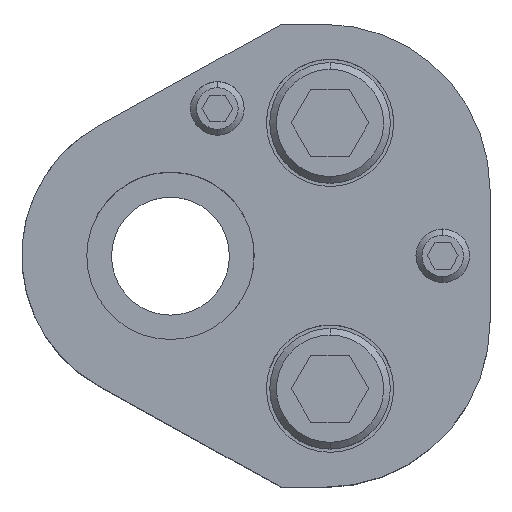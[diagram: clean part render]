
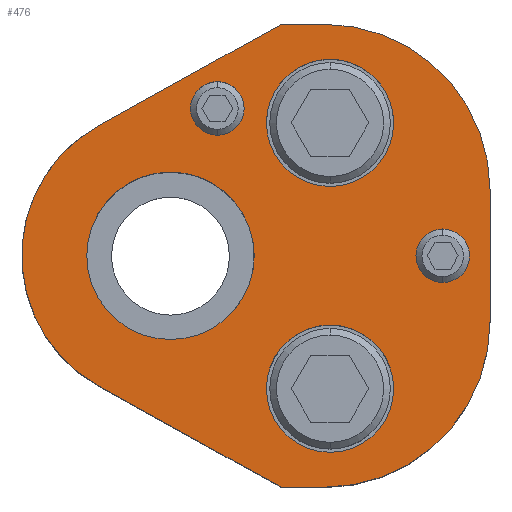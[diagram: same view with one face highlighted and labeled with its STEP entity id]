
A CAD part, top view. The second image highlights one B-rep face of the part: STEP entity #476.
In plain terms, the highlighted planar face has unit normal (0, 0, 1).
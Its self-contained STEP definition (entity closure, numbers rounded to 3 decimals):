
#213=FACE_BOUND('',#843,.T.);
#214=FACE_BOUND('',#844,.T.);
#215=FACE_BOUND('',#845,.T.);
#216=FACE_BOUND('',#846,.T.);
#217=FACE_BOUND('',#847,.T.);
#218=FACE_BOUND('',#848,.T.);
#300=CIRCLE('',#2773,24.7);
#302=CIRCLE('',#2777,24.7);
#304=CIRCLE('',#2782,4.);
#306=CIRCLE('',#2785,4.);
#308=CIRCLE('',#2788,4.);
#310=CIRCLE('',#2791,4.);
#320=CIRCLE('',#2806,22.2);
#321=CIRCLE('',#2807,9.5);
#322=CIRCLE('',#2808,9.5);
#323=CIRCLE('',#2809,9.5);
#324=CIRCLE('',#2810,9.5);
#325=CIRCLE('',#2811,12.5);
#326=CIRCLE('',#2812,12.5);
#476=ADVANCED_FACE('',(#213,#214,#215,#216,#217,#218),#592,.T.);
#592=PLANE('',#2813);
#843=EDGE_LOOP('',(#1250,#1251,#1252,#1253,#1254,#1255,#1256,#1257));
#844=EDGE_LOOP('',(#1258,#1259));
#845=EDGE_LOOP('',(#1260,#1261));
#846=EDGE_LOOP('',(#1262,#1263));
#847=EDGE_LOOP('',(#1264,#1265));
#848=EDGE_LOOP('',(#1266,#1267));
#1250=ORIENTED_EDGE('',*,*,#2069,.T.);
#1251=ORIENTED_EDGE('',*,*,#2027,.T.);
#1252=ORIENTED_EDGE('',*,*,#2031,.T.);
#1253=ORIENTED_EDGE('',*,*,#2034,.T.);
#1254=ORIENTED_EDGE('',*,*,#2037,.T.);
#1255=ORIENTED_EDGE('',*,*,#2040,.T.);
#1256=ORIENTED_EDGE('',*,*,#2043,.T.);
#1257=ORIENTED_EDGE('',*,*,#2070,.T.);
#1258=ORIENTED_EDGE('',*,*,#2071,.F.);
#1259=ORIENTED_EDGE('',*,*,#2072,.F.);
#1260=ORIENTED_EDGE('',*,*,#2073,.F.);
#1261=ORIENTED_EDGE('',*,*,#2074,.F.);
#1262=ORIENTED_EDGE('',*,*,#2055,.F.);
#1263=ORIENTED_EDGE('',*,*,#2051,.F.);
#1264=ORIENTED_EDGE('',*,*,#2049,.F.);
#1265=ORIENTED_EDGE('',*,*,#2045,.F.);
#1266=ORIENTED_EDGE('',*,*,#2075,.T.);
#1267=ORIENTED_EDGE('',*,*,#2076,.T.);
#1751=VERTEX_POINT('',#4099);
#1752=VERTEX_POINT('',#4101);
#1755=VERTEX_POINT('',#4108);
#1757=VERTEX_POINT('',#4114);
#1759=VERTEX_POINT('',#4120);
#1761=VERTEX_POINT('',#4126);
#1763=VERTEX_POINT('',#4132);
#1764=VERTEX_POINT('',#4137);
#1765=VERTEX_POINT('',#4138);
#1768=VERTEX_POINT('',#4149);
#1769=VERTEX_POINT('',#4150);
#1780=VERTEX_POINT('',#4185);
#1781=VERTEX_POINT('',#4188);
#1782=VERTEX_POINT('',#4189);
#1783=VERTEX_POINT('',#4192);
#1784=VERTEX_POINT('',#4193);
#1785=VERTEX_POINT('',#4196);
#1786=VERTEX_POINT('',#4197);
#2027=EDGE_CURVE('',#1752,#1751,#2336,.T.);
#2031=EDGE_CURVE('',#1751,#1755,#300,.T.);
#2034=EDGE_CURVE('',#1755,#1757,#2341,.T.);
#2037=EDGE_CURVE('',#1757,#1759,#302,.T.);
#2040=EDGE_CURVE('',#1759,#1761,#2345,.T.);
#2043=EDGE_CURVE('',#1761,#1763,#2348,.T.);
#2045=EDGE_CURVE('',#1764,#1765,#304,.T.);
#2049=EDGE_CURVE('',#1765,#1764,#306,.T.);
#2051=EDGE_CURVE('',#1768,#1769,#308,.T.);
#2055=EDGE_CURVE('',#1769,#1768,#310,.T.);
#2069=EDGE_CURVE('',#1780,#1752,#2358,.T.);
#2070=EDGE_CURVE('',#1763,#1780,#320,.T.);
#2071=EDGE_CURVE('',#1781,#1782,#321,.T.);
#2072=EDGE_CURVE('',#1782,#1781,#322,.T.);
#2073=EDGE_CURVE('',#1783,#1784,#323,.T.);
#2074=EDGE_CURVE('',#1784,#1783,#324,.T.);
#2075=EDGE_CURVE('',#1785,#1786,#325,.T.);
#2076=EDGE_CURVE('',#1786,#1785,#326,.T.);
#2336=LINE('',#4100,#2538);
#2341=LINE('',#4115,#2543);
#2345=LINE('',#4127,#2547);
#2348=LINE('',#4133,#2550);
#2358=LINE('',#4184,#2560);
#2538=VECTOR('',#3249,1.);
#2543=VECTOR('',#3262,1.);
#2547=VECTOR('',#3274,1.);
#2550=VECTOR('',#3279,1.);
#2560=VECTOR('',#3339,1.);
#2773=AXIS2_PLACEMENT_3D('',#4109,#3255,#3256);
#2777=AXIS2_PLACEMENT_3D('',#4121,#3267,#3268);
#2782=AXIS2_PLACEMENT_3D('',#4136,#3283,#3284);
#2785=AXIS2_PLACEMENT_3D('',#4145,#3291,#3292);
#2788=AXIS2_PLACEMENT_3D('',#4148,#3297,#3298);
#2791=AXIS2_PLACEMENT_3D('',#4157,#3305,#3306);
#2806=AXIS2_PLACEMENT_3D('',#4186,#3340,#3341);
#2807=AXIS2_PLACEMENT_3D('',#4187,#3342,#3343);
#2808=AXIS2_PLACEMENT_3D('',#4190,#3344,#3345);
#2809=AXIS2_PLACEMENT_3D('',#4191,#3346,#3347);
#2810=AXIS2_PLACEMENT_3D('',#4194,#3348,#3349);
#2811=AXIS2_PLACEMENT_3D('',#4195,#3350,#3351);
#2812=AXIS2_PLACEMENT_3D('',#4198,#3352,#3353);
#2813=AXIS2_PLACEMENT_3D('',#4199,#3354,#3355);
#3249=DIRECTION('',(1.,0.,0.));
#3255=DIRECTION('',(0.,0.,1.));
#3256=DIRECTION('',(-0.707,0.707,0.));
#3262=DIRECTION('',(0.,1.,0.));
#3267=DIRECTION('',(0.,0.,1.));
#3268=DIRECTION('',(-0.707,-0.707,0.));
#3274=DIRECTION('',(-1.,0.,0.));
#3279=DIRECTION('',(-0.875,-0.485,0.));
#3283=DIRECTION('',(0.,0.,1.));
#3284=DIRECTION('',(-1.,0.,0.));
#3291=DIRECTION('',(0.,0.,1.));
#3292=DIRECTION('',(1.,0.,0.));
#3297=DIRECTION('',(0.,0.,1.));
#3298=DIRECTION('',(-1.,0.,0.));
#3305=DIRECTION('',(0.,0.,1.));
#3306=DIRECTION('',(1.,0.,0.));
#3339=DIRECTION('',(0.875,-0.485,0.));
#3340=DIRECTION('',(0.,0.,1.));
#3341=DIRECTION('',(1.,0.,0.));
#3342=DIRECTION('',(0.,0.,1.));
#3343=DIRECTION('',(1.,0.,0.));
#3344=DIRECTION('',(0.,0.,1.));
#3345=DIRECTION('',(-1.,0.,0.));
#3346=DIRECTION('',(0.,0.,1.));
#3347=DIRECTION('',(1.,0.,0.));
#3348=DIRECTION('',(0.,0.,1.));
#3349=DIRECTION('',(-1.,0.,0.));
#3350=DIRECTION('',(0.,0.,-1.));
#3351=DIRECTION('',(-1.,0.,0.));
#3352=DIRECTION('',(0.,0.,-1.));
#3353=DIRECTION('',(1.,0.,0.));
#3354=DIRECTION('',(0.,0.,1.));
#3355=DIRECTION('',(-0.875,0.485,0.));
#4099=CARTESIAN_POINT('',(23.,-34.55,37.));
#4100=CARTESIAN_POINT('',(16.539,-34.55,37.));
#4101=CARTESIAN_POINT('',(16.539,-34.55,37.));
#4108=CARTESIAN_POINT('',(47.7,-9.85,37.));
#4109=CARTESIAN_POINT('',(23.,-9.85,37.));
#4114=CARTESIAN_POINT('',(47.7,9.85,37.));
#4115=CARTESIAN_POINT('',(47.7,9.85,37.));
#4120=CARTESIAN_POINT('',(23.,34.55,37.));
#4121=CARTESIAN_POINT('',(23.,9.85,37.));
#4126=CARTESIAN_POINT('',(16.539,34.55,37.));
#4127=CARTESIAN_POINT('',(16.539,34.55,37.));
#4132=CARTESIAN_POINT('',(-10.763,19.417,37.));
#4133=CARTESIAN_POINT('',(16.539,34.55,37.));
#4136=CARTESIAN_POINT('',(7.,22.,37.));
#4137=CARTESIAN_POINT('',(7.,18.,37.));
#4138=CARTESIAN_POINT('',(7.,26.,37.));
#4145=CARTESIAN_POINT('',(7.,22.,37.));
#4148=CARTESIAN_POINT('',(40.64,0.,37.));
#4149=CARTESIAN_POINT('',(40.64,-4.,37.));
#4150=CARTESIAN_POINT('',(40.64,4.,37.));
#4157=CARTESIAN_POINT('',(40.64,0.,37.));
#4184=CARTESIAN_POINT('',(16.539,-34.55,37.));
#4185=CARTESIAN_POINT('',(-10.763,-19.417,37.));
#4186=CARTESIAN_POINT('',(0.,0.,37.));
#4187=CARTESIAN_POINT('',(23.82,19.84,37.));
#4188=CARTESIAN_POINT('',(23.82,29.34,37.));
#4189=CARTESIAN_POINT('',(23.82,10.34,37.));
#4190=CARTESIAN_POINT('',(23.82,19.84,37.));
#4191=CARTESIAN_POINT('',(23.82,-19.84,37.));
#4192=CARTESIAN_POINT('',(23.82,-10.34,37.));
#4193=CARTESIAN_POINT('',(23.82,-29.34,37.));
#4194=CARTESIAN_POINT('',(23.82,-19.84,37.));
#4195=CARTESIAN_POINT('',(0.,0.,37.));
#4196=CARTESIAN_POINT('',(0.,12.5,37.));
#4197=CARTESIAN_POINT('',(0.,-12.5,37.));
#4198=CARTESIAN_POINT('',(0.,0.,37.));
#4199=CARTESIAN_POINT('',(-10.763,-19.417,37.));
